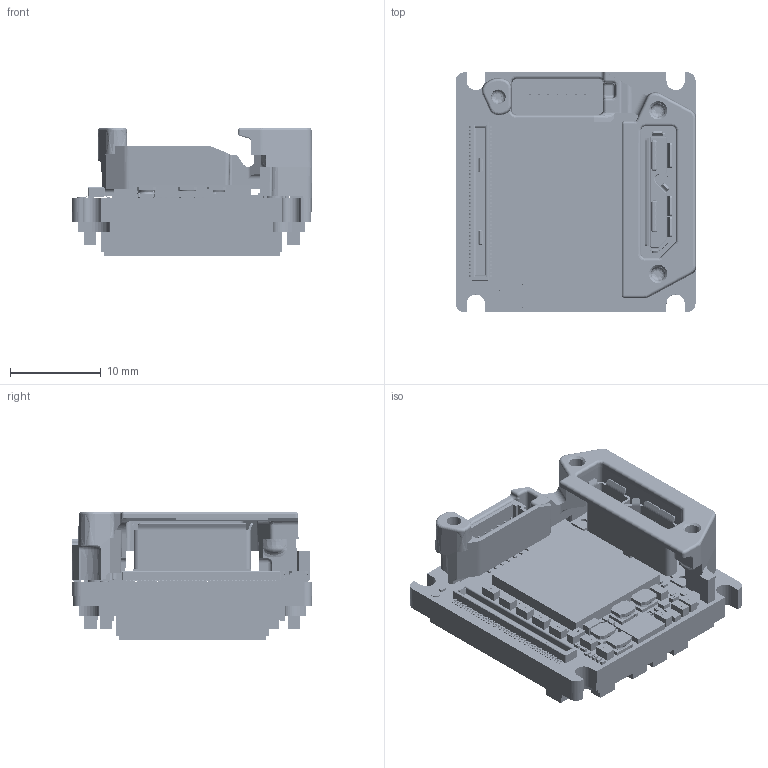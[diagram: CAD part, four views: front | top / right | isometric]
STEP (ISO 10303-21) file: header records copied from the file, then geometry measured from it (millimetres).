
FILE_DESCRIPTION (( 'STEP AP214' ), '1' );
FILE_NAME ('Alvium-USB180-Bare-Board-IMX421-422-426.STEP', '2022-11-18T15:27:13', ( '' ), ( '' ), 'SwSTEP 2.0', 'SolidWorks 2021', '' );
FILE_SCHEMA (( 'AUTOMOTIVE_DESIGN' ));
Length unit declared in the file: millimetre
Products named in the file (1): Alvium-USB180-Bare-Board-IMX421-422-426
Bounding box: 26.48 x 26.45 x 14.14 mm (x, y, z)
Volume: 4407 mm3; surface area: 6588.1 mm2
Topology: 193 solids, 193 shells, 11322 faces, 28555 edges, 18687 vertices
Faces by surface type: plane 5659, bspline 4349, cylinder 1210, cone 46, torus 40, sphere 18
Entity records: 708937 total; most frequent: CARTESIAN_POINT 339028, ORIENTED_EDGE 57060, DIRECTION 36162, EDGE_CURVE 28530, VERTEX_POINT 18687, VECTOR 17208, LINE 17208, EDGE_LOOP 12431
